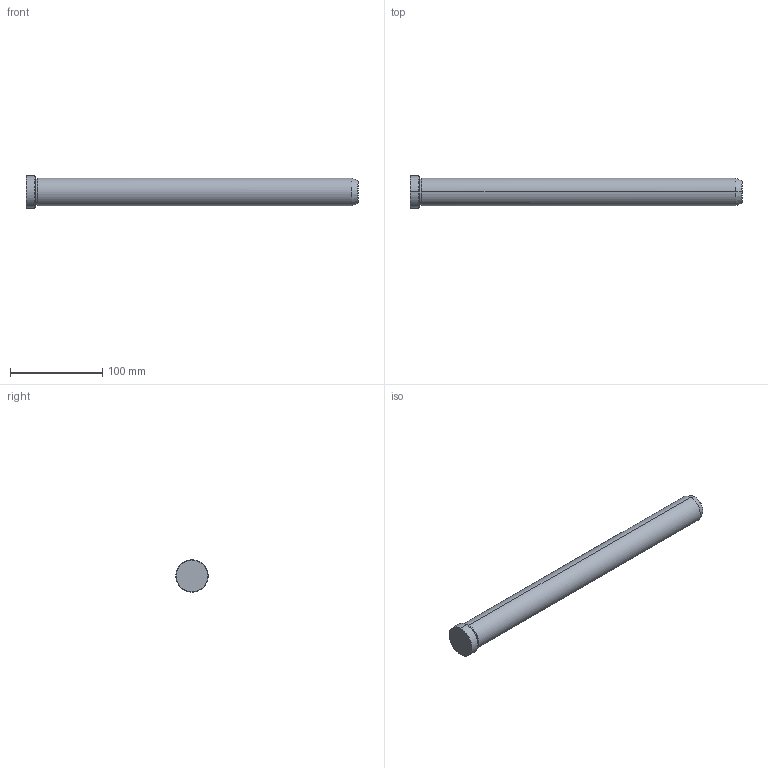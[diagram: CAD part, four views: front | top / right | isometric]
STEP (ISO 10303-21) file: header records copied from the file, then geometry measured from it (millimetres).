
FILE_DESCRIPTION(('CATIA V5 STEP Exchange'),'2;1');
FILE_NAME('C:\Users\Utente\Desktop\IO LAVORO\3D X SITO CF\X SITO\PLASTICA\549\549-30X360.stp','2021-12-17T15:36:06+00:00',('none'),('none'),'CATIA Version 5 Release 20 GA (IN-10)','CATIA V5 STEP AP203','none');
FILE_SCHEMA(('CONFIG_CONTROL_DESIGN'));
Length unit declared in the file: millimetre
Products named in the file (1): 549-30X360
Bounding box: 360 x 35 x 35 mm (x, y, z)
Volume: 256018.4 mm3; surface area: 35753.4 mm2
Topology: 1 solids, 1 shells, 19 faces, 56 edges, 40 vertices
Faces by surface type: cone 8, cylinder 6, plane 3, torus 2
Entity records: 736 total; most frequent: CARTESIAN_POINT 192, ORIENTED_EDGE 112, DIRECTION 86, EDGE_CURVE 56, AXIS2_PLACEMENT_3D 54, VERTEX_POINT 40, CIRCLE 34, EDGE_LOOP 20
